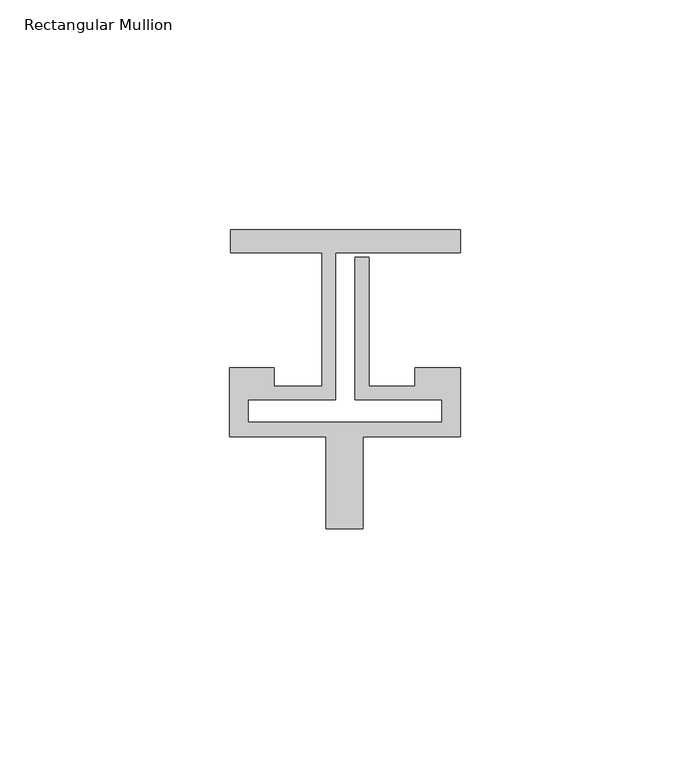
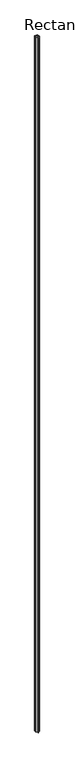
"""IFC4 building model written with IfcOpenShell, lengths in millimetres: member geometry, Rectangular Mullion : Reynaers_CW-50_Mullion-Transom_Horizontal_5mm_Facecap-06A."""

from ifc_helpers import new_model, si_unit, frame, origin, place, context, project, spatial, polyline, outline, extrude, source, transform, mapped, element, save


def rectangular_mullion_5baca6db(model_context):
    return source(origin(), model_context, "Body", "SweptSolid", [
        extrude(outline(polyline([(-24.8004059, 17.5), (25.1995941, 17.5), (25.1995941, 12.5), (-1.9004059, 12.5), (-1.9004059, -19.5), (-20.994845, -19.5), (-20.994845, -24.4191338), (21.1995941, -24.4191338), (21.1995941, -19.5), (2.2995941, -19.5), (2.2995941, 11.5), (5.2995941, 11.5), (5.2995941, -16.5), (15.2996495, -16.5), (15.2996495, -12.5), (25.1995941, -12.5), (25.1995941, -27.5), (4.004855, -27.5), (4.004855, -47.5), (-3.995145, -47.5), (-3.995145, -27.5), (-24.994845, -27.5), (-24.994845, -12.5), (-15.2996495, -12.5), (-15.2996495, -16.5), (-4.9004059, -16.5), (-4.9004059, 12.5), (-24.8004059, 12.5), (-24.8004059, 17.5)])), frame((0.0, 0.0, -12000.0), z_axis=(0.0, 0.0, 1.0), x_axis=(1.0, 0.0, 0.0)), (0.0, 0.0, 1.0), 12000.0),
    ])


if __name__ == "__main__":
    model = new_model("IFC4")
    model_context = context("Model", 3, world=origin())
    ifc_project = project(units=[si_unit("LENGTHUNIT", "METRE", prefix="MILLI")], contexts=[model_context])
    site = spatial("IfcSite", under=ifc_project)
    building = spatial("IfcBuilding", under=site)
    placement = place(None, origin())
    rectangular_mullion_shape = rectangular_mullion_5baca6db(model_context)
    element("IfcMember", 1, ObjectType="Rectangular Mullion : Reynaers_CW-50_Mullion-Transom_Horizontal_5mm_Facecap-06A", at=placement, inside=building, context=model_context, shape_type="MappedRepresentation", body=[
        mapped(rectangular_mullion_shape, transform((0.0, 0.0, 0.0), x_axis=(1.0, 0.0, 0.0), y_axis=(0.0, 1.0, 0.0), z_axis=(0.0, 0.0, 1.0))),
    ])
    save(model, "model.ifc")
